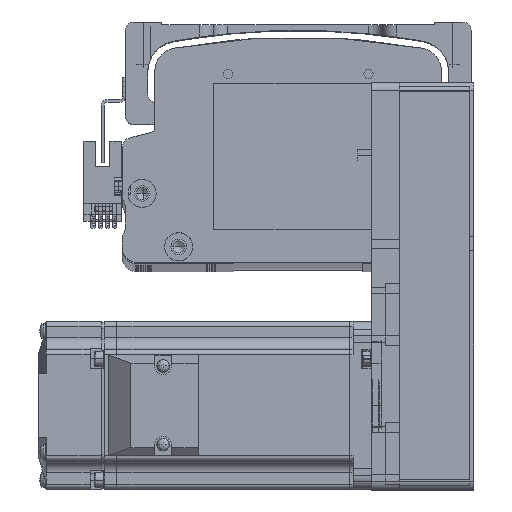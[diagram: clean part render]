
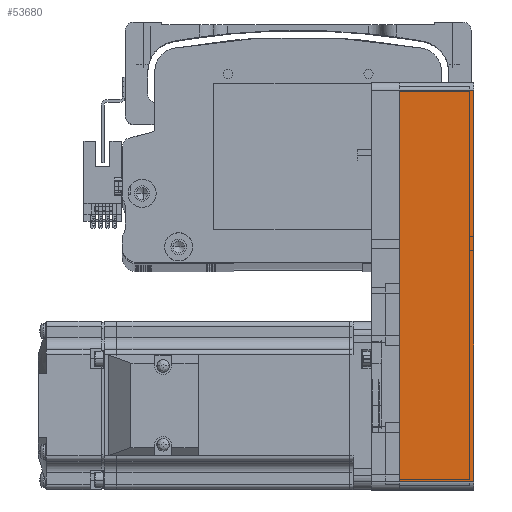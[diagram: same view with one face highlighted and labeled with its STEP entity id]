
A CAD part, top view. The second image highlights one B-rep face of the part: STEP entity #53680.
In plain terms, the highlighted planar face has unit normal (0, 0, 1) as drawn and (0, -1, 0) by its records, which use the part's own axes.
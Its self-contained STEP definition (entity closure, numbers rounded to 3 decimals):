
#1274 = LINE ( 'NONE', #61389, #71633 ) ;
#3969 = VECTOR ( 'NONE', #45183, 1000. ) ;
#9568 = VECTOR ( 'NONE', #41766, 1000. ) ;
#10038 = EDGE_CURVE ( 'NONE', #80604, #79098, #24263, .T. ) ;
#12235 = LINE ( 'NONE', #22551, #46331 ) ;
#14447 = CARTESIAN_POINT ( 'NONE',  ( -69.5, -30., 0. ) ) ;
#22551 = CARTESIAN_POINT ( 'NONE',  ( -69.5, -30., 26.5 ) ) ;
#24263 = LINE ( 'NONE', #37974, #3969 ) ;
#29086 = DIRECTION ( 'NONE',  ( 0., 0., -1. ) ) ;
#34238 = DIRECTION ( 'NONE',  ( 1., 0., 0. ) ) ;
#36775 = CARTESIAN_POINT ( 'NONE',  ( 72.5, -30., 26.5 ) ) ;
#37974 = CARTESIAN_POINT ( 'NONE',  ( 72.5, -30., 26.5 ) ) ;
#41766 = DIRECTION ( 'NONE',  ( 0., 0., 1. ) ) ;
#43182 = ORIENTED_EDGE ( 'NONE', *, *, #52539, .T. ) ;
#43709 = DIRECTION ( 'NONE',  ( -1., 0., 0. ) ) ;
#45183 = DIRECTION ( 'NONE',  ( 1., 0., 0. ) ) ;
#46331 = VECTOR ( 'NONE', #29086, 1000. ) ;
#48110 = ORIENTED_EDGE ( 'NONE', *, *, #10038, .F. ) ;
#48527 = CARTESIAN_POINT ( 'NONE',  ( 69.5, -30., 26.5 ) ) ;
#50198 = PLANE ( 'NONE',  #67526 ) ;
#52539 = EDGE_CURVE ( 'NONE', #67922, #79098, #63897, .T. ) ;
#53680 = ADVANCED_FACE ( 'NONE', ( #88137 ), #50198, .F. ) ;
#55496 = EDGE_CURVE ( 'NONE', #80604, #83294, #12235, .T. ) ;
#61389 = CARTESIAN_POINT ( 'NONE',  ( 72.5, -30., 0. ) ) ;
#63897 = LINE ( 'NONE', #48527, #9568 ) ;
#67526 = AXIS2_PLACEMENT_3D ( 'NONE', #36775, #84519, #43709 ) ;
#67922 = VERTEX_POINT ( 'NONE', #80151 ) ;
#70137 = CARTESIAN_POINT ( 'NONE',  ( 69.5, -30., 26.5 ) ) ;
#71467 = ORIENTED_EDGE ( 'NONE', *, *, #55496, .T. ) ;
#71633 = VECTOR ( 'NONE', #34238, 1000. ) ;
#71990 = CARTESIAN_POINT ( 'NONE',  ( -69.5, -30., 26.5 ) ) ;
#79098 = VERTEX_POINT ( 'NONE', #70137 ) ;
#80151 = CARTESIAN_POINT ( 'NONE',  ( 69.5, -30., 0. ) ) ;
#80604 = VERTEX_POINT ( 'NONE', #71990 ) ;
#81741 = ORIENTED_EDGE ( 'NONE', *, *, #82279, .T. ) ;
#82279 = EDGE_CURVE ( 'NONE', #83294, #67922, #1274, .T. ) ;
#82900 = EDGE_LOOP ( 'NONE', ( #81741, #43182, #48110, #71467 ) ) ;
#83294 = VERTEX_POINT ( 'NONE', #14447 ) ;
#84519 = DIRECTION ( 'NONE',  ( 0., 1., 0. ) ) ;
#88137 = FACE_OUTER_BOUND ( 'NONE', #82900, .T. ) ;
